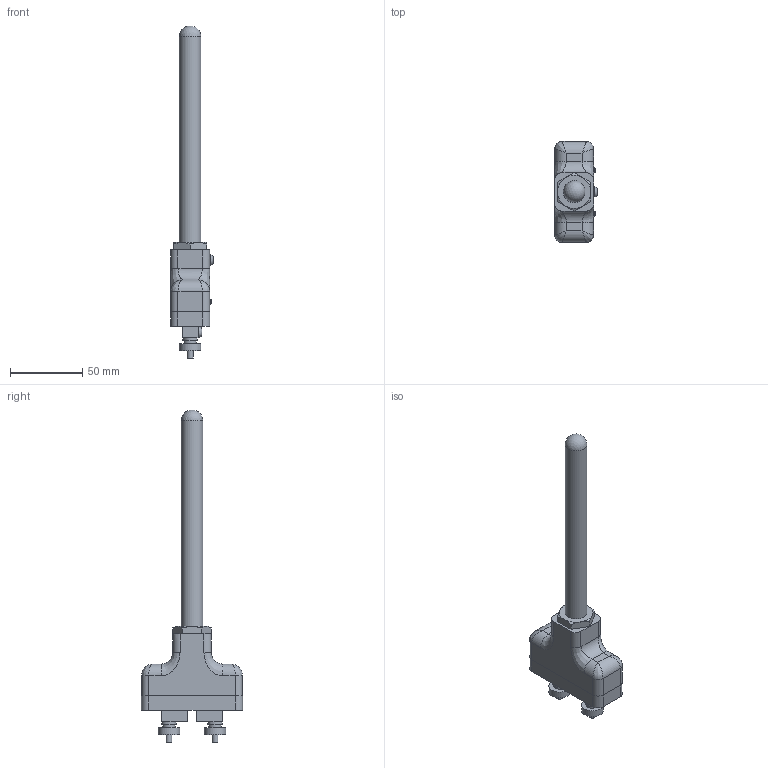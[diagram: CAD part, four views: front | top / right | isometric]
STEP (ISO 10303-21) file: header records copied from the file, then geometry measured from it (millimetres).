
FILE_DESCRIPTION (( 'STEP AP203' ), '1' );
FILE_NAME ('YIT85-7(0).step', '2025-08-26T07:23:40', ( '' ), ( '' ), 'SwSTEP 2.0', 'SolidWorks 2024', '' );
FILE_SCHEMA (( 'CONFIG_CONTROL_DESIGN' ));
Length unit declared in the file: millimetre
Products named in the file (1): YIT85-7(0)
Bounding box: 29.55 x 70 x 229.95 mm (x, y, z)
Volume: 107665.5 mm3; surface area: 23203.5 mm2
Topology: 10 solids, 10 shells, 251 faces, 591 edges, 383 vertices
Faces by surface type: plane 180, cylinder 54, bspline 8, torus 7, cone 1, sphere 1
Full cylindrical faces by diameter (mm): 1.5 x2, 2 x2, 3 x1, 3.5 x2, 4 x11, 7 x7, 8.5 x2, 10 x2, 11 x1, 12 x1, 15 x3
Entity records: 7521 total; most frequent: CARTESIAN_POINT 2096, ORIENTED_EDGE 1054, DIRECTION 1040, EDGE_CURVE 527, VERTEX_POINT 367, AXIS2_PLACEMENT_3D 357, VECTOR 326, LINE 326
